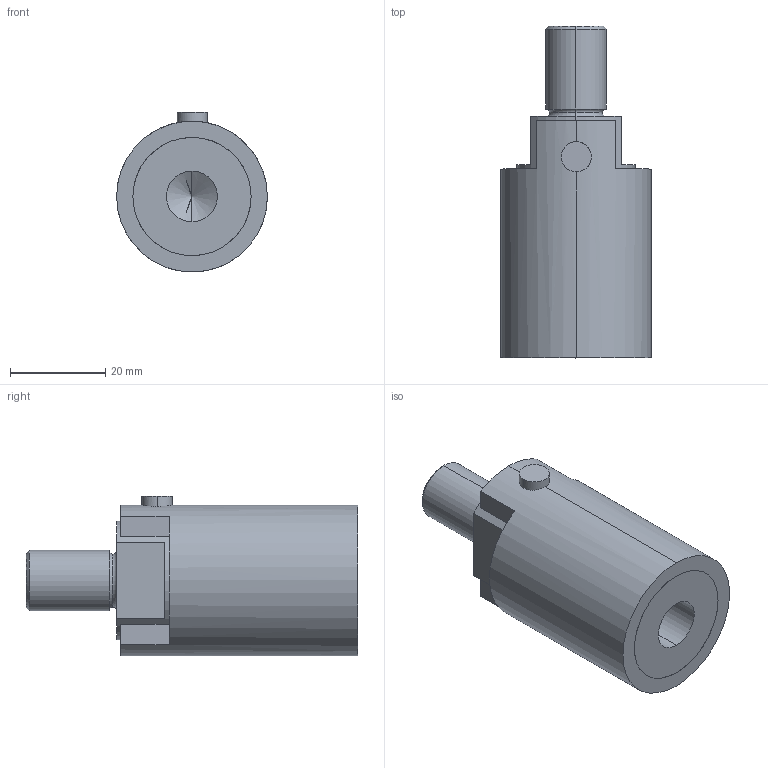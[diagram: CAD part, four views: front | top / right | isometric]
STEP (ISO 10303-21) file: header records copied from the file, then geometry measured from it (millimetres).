
FILE_DESCRIPTION (( 'STEP AP214' ), '1' );
FILE_NAME ('SS1122-2K Assembly.STEP', '2014-05-08T14:18:46', ( '' ), ( '' ), 'SwSTEP 2.0', 'SolidWorks 2008', '' );
FILE_SCHEMA (( 'AUTOMOTIVE_DESIGN' ));
Length unit declared in the file: inch
Products named in the file (1): SS1122-2K Assembly
Bounding box: 31.75 x 69.85 x 33.67 mm (x, y, z)
Volume: 38058.1 mm3; surface area: 14972.4 mm2
Topology: 2 solids, 2 shells, 37 faces, 91 edges, 57 vertices
Faces by surface type: plane 17, cylinder 12, torus 4, cone 4
Entity records: 1672 total; most frequent: CARTESIAN_POINT 250, DIRECTION 205, ORIENTED_EDGE 178, EDGE_CURVE 89, AXIS2_PLACEMENT_3D 82, VERTEX_POINT 57, CIRCLE 44, LINE 41
